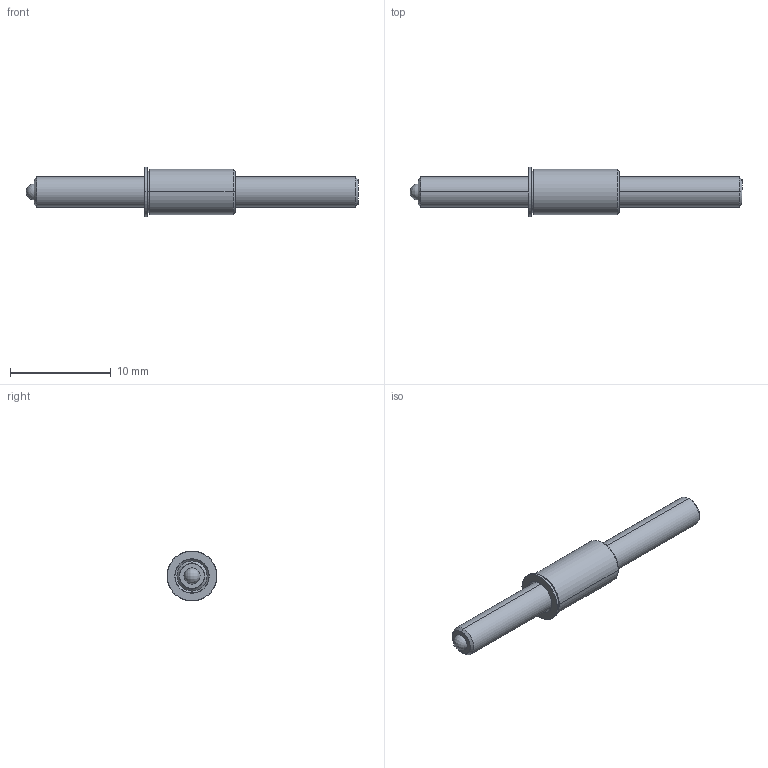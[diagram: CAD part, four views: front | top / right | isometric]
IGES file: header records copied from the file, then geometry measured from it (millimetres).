
Start section: SolidWorks IGES file using analytic representation for surfaces
Global section: file name: C:\Users\workpc\Desktop\KMA Solidworks\TSBM3-25-33_9.IGS; native system: SolidWorks 2013; preprocessor: SolidWorks 2013; author: workpc; date: 130314.171547; units: inch
Bounding box: 33 x 4.95 x 4.95 mm (x, y, z)
Surface area: 486.1 mm2 (no closed solid volume)
Topology: 0 solids, 0 shells, 32 faces, 446 edges, 442 vertices
Faces by surface type: revolution 20, bspline 12
